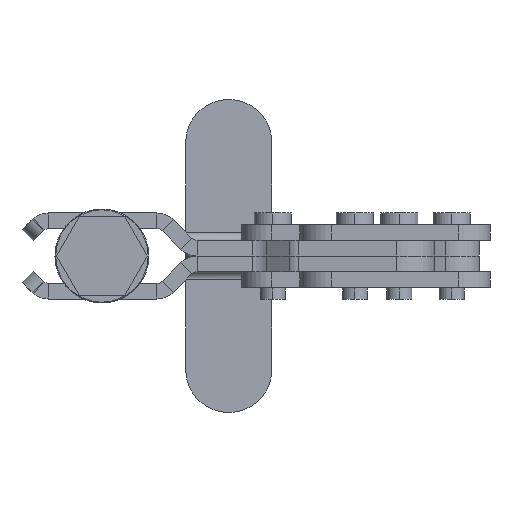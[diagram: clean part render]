
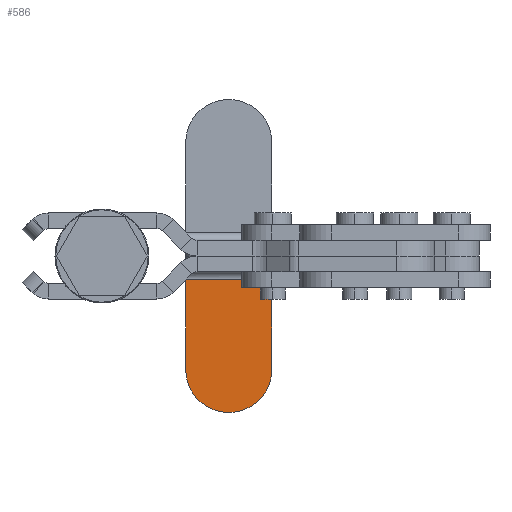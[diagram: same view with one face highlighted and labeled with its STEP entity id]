
A CAD part, front view. The second image highlights one B-rep face of the part: STEP entity #586.
In plain terms, the highlighted planar face has unit normal (0, -1, 0).
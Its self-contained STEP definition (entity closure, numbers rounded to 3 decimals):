
#424 = VECTOR ( 'NONE', #7181, 1000. ) ;
#505 = CARTESIAN_POINT ( 'NONE',  ( -33.992, 15.686, -3. ) ) ;
#586 = ADVANCED_FACE ( 'NONE', ( #6648 ), #4269, .F. ) ;
#688 = CIRCLE ( 'NONE', #5632, 5.5 ) ;
#774 = VECTOR ( 'NONE', #3804, 1000. ) ;
#832 = VERTEX_POINT ( 'NONE', #1439 ) ;
#886 = DIRECTION ( 'NONE',  ( 1., 0., 0. ) ) ;
#889 = CARTESIAN_POINT ( 'NONE',  ( -22.992, 15.686, -3. ) ) ;
#1250 = DIRECTION ( 'NONE',  ( 0., 0., -1. ) ) ;
#1307 = ORIENTED_EDGE ( 'NONE', *, *, #3939, .F. ) ;
#1435 = VECTOR ( 'NONE', #1250, 1000. ) ;
#1439 = CARTESIAN_POINT ( 'NONE',  ( -33.992, 15.686, -14.496 ) ) ;
#1850 = DIRECTION ( 'NONE',  ( 0., 1., 0. ) ) ;
#2481 = CARTESIAN_POINT ( 'NONE',  ( -22.992, 15.686, -14.496 ) ) ;
#2800 = DIRECTION ( 'NONE',  ( 0., 1., 0. ) ) ;
#3170 = EDGE_LOOP ( 'NONE', ( #1307, #3864, #7109, #5577 ) ) ;
#3619 = CARTESIAN_POINT ( 'NONE',  ( 0., 15.686, 14.513 ) ) ;
#3804 = DIRECTION ( 'NONE',  ( -1., 0., 0. ) ) ;
#3809 = EDGE_CURVE ( 'NONE', #5266, #832, #688, .T. ) ;
#3864 = ORIENTED_EDGE ( 'NONE', *, *, #5221, .T. ) ;
#3939 = EDGE_CURVE ( 'NONE', #5656, #5266, #6914, .T. ) ;
#4074 = LINE ( 'NONE', #6464, #424 ) ;
#4269 = PLANE ( 'NONE',  #8371 ) ;
#5221 = EDGE_CURVE ( 'NONE', #5656, #5334, #6256, .T. ) ;
#5266 = VERTEX_POINT ( 'NONE', #2481 ) ;
#5334 = VERTEX_POINT ( 'NONE', #505 ) ;
#5376 = CARTESIAN_POINT ( 'NONE',  ( -22.992, 15.686, -1.347 ) ) ;
#5577 = ORIENTED_EDGE ( 'NONE', *, *, #3809, .F. ) ;
#5632 = AXIS2_PLACEMENT_3D ( 'NONE', #5977, #1850, #6669 ) ;
#5656 = VERTEX_POINT ( 'NONE', #889 ) ;
#5887 = CARTESIAN_POINT ( 'NONE',  ( 0., 15.686, -3. ) ) ;
#5977 = CARTESIAN_POINT ( 'NONE',  ( -28.492, 15.686, -14.496 ) ) ;
#6256 = LINE ( 'NONE', #5887, #774 ) ;
#6464 = CARTESIAN_POINT ( 'NONE',  ( -33.992, 15.686, 2.217 ) ) ;
#6648 = FACE_OUTER_BOUND ( 'NONE', #3170, .T. ) ;
#6669 = DIRECTION ( 'NONE',  ( 1., 0., 0. ) ) ;
#6914 = LINE ( 'NONE', #5376, #1435 ) ;
#7109 = ORIENTED_EDGE ( 'NONE', *, *, #7625, .F. ) ;
#7181 = DIRECTION ( 'NONE',  ( 0., 0., 1. ) ) ;
#7625 = EDGE_CURVE ( 'NONE', #832, #5334, #4074, .T. ) ;
#8371 = AXIS2_PLACEMENT_3D ( 'NONE', #3619, #2800, #886 ) ;
